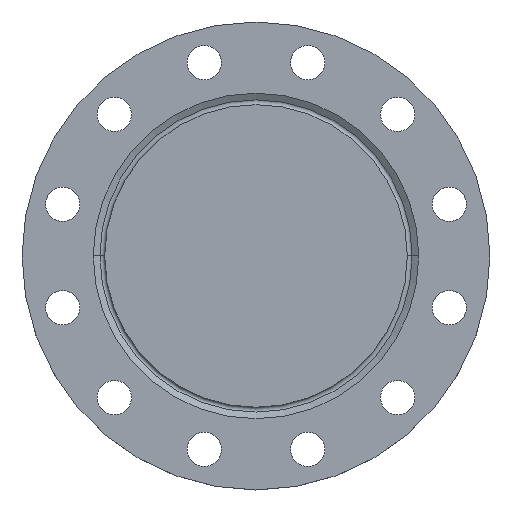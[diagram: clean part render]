
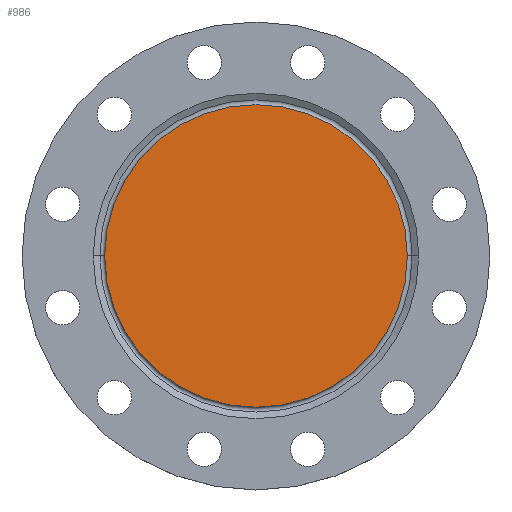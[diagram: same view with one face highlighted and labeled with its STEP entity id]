
A CAD part, top view. The second image highlights one B-rep face of the part: STEP entity #986.
In plain terms, the highlighted planar face has unit normal (0, 0, 1).
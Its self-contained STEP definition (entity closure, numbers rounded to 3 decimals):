
#37 = CARTESIAN_POINT ( 'NONE',  ( 0., 0., 0. ) ) ;
#103 = AXIS2_PLACEMENT_3D ( 'NONE', #678, #671, #670 ) ;
#120 = CARTESIAN_POINT ( 'NONE',  ( -145.5, 0., 0. ) ) ;
#331 = DIRECTION ( 'NONE',  ( 1., 0., 0. ) ) ;
#333 = DIRECTION ( 'NONE',  ( 0., 0., 1. ) ) ;
#335 = CARTESIAN_POINT ( 'NONE',  ( 0., 0., 0. ) ) ;
#336 = PLANE ( 'NONE',  #1213 ) ;
#338 = FACE_OUTER_BOUND ( 'NONE', #1310, .T. ) ;
#356 = EDGE_CURVE ( 'NONE', #1182, #957, #761, .T. ) ;
#369 = CARTESIAN_POINT ( 'NONE',  ( 145.5, 0., 0. ) ) ;
#504 = DIRECTION ( 'NONE',  ( -1., 0., 0. ) ) ;
#506 = DIRECTION ( 'NONE',  ( 0., 0., -1. ) ) ;
#670 = DIRECTION ( 'NONE',  ( -1., 0., 0. ) ) ;
#671 = DIRECTION ( 'NONE',  ( 0., 0., -1. ) ) ;
#678 = CARTESIAN_POINT ( 'NONE',  ( 0., 0., 0. ) ) ;
#761 = CIRCLE ( 'NONE', #103, 145.5 ) ;
#957 = VERTEX_POINT ( 'NONE', #369 ) ;
#980 = CIRCLE ( 'NONE', #1009, 145.5 ) ;
#986 = ADVANCED_FACE ( 'NONE', ( #338 ), #336, .T. ) ;
#1009 = AXIS2_PLACEMENT_3D ( 'NONE', #37, #506, #504 ) ;
#1182 = VERTEX_POINT ( 'NONE', #120 ) ;
#1213 = AXIS2_PLACEMENT_3D ( 'NONE', #335, #333, #331 ) ;
#1258 = ORIENTED_EDGE ( 'NONE', *, *, #356, .F. ) ;
#1259 = ORIENTED_EDGE ( 'NONE', *, *, #1329, .F. ) ;
#1310 = EDGE_LOOP ( 'NONE', ( #1258, #1259 ) ) ;
#1329 = EDGE_CURVE ( 'NONE', #957, #1182, #980, .T. ) ;
